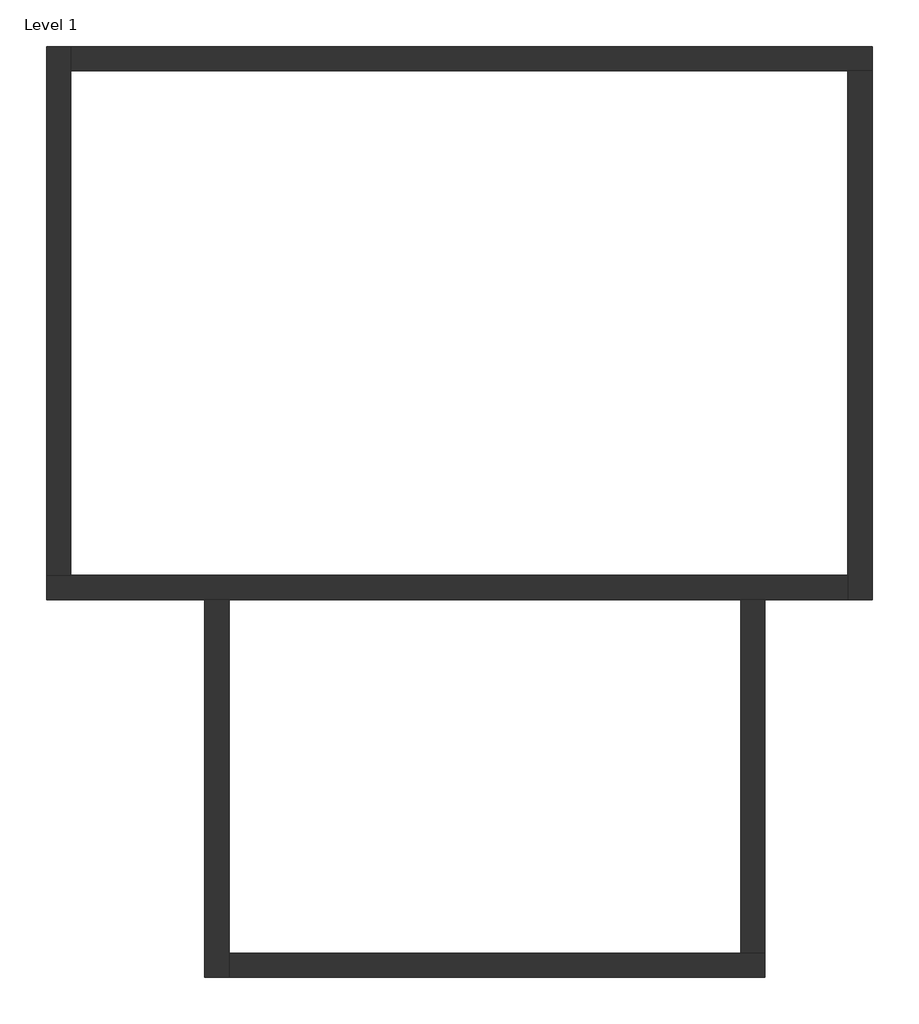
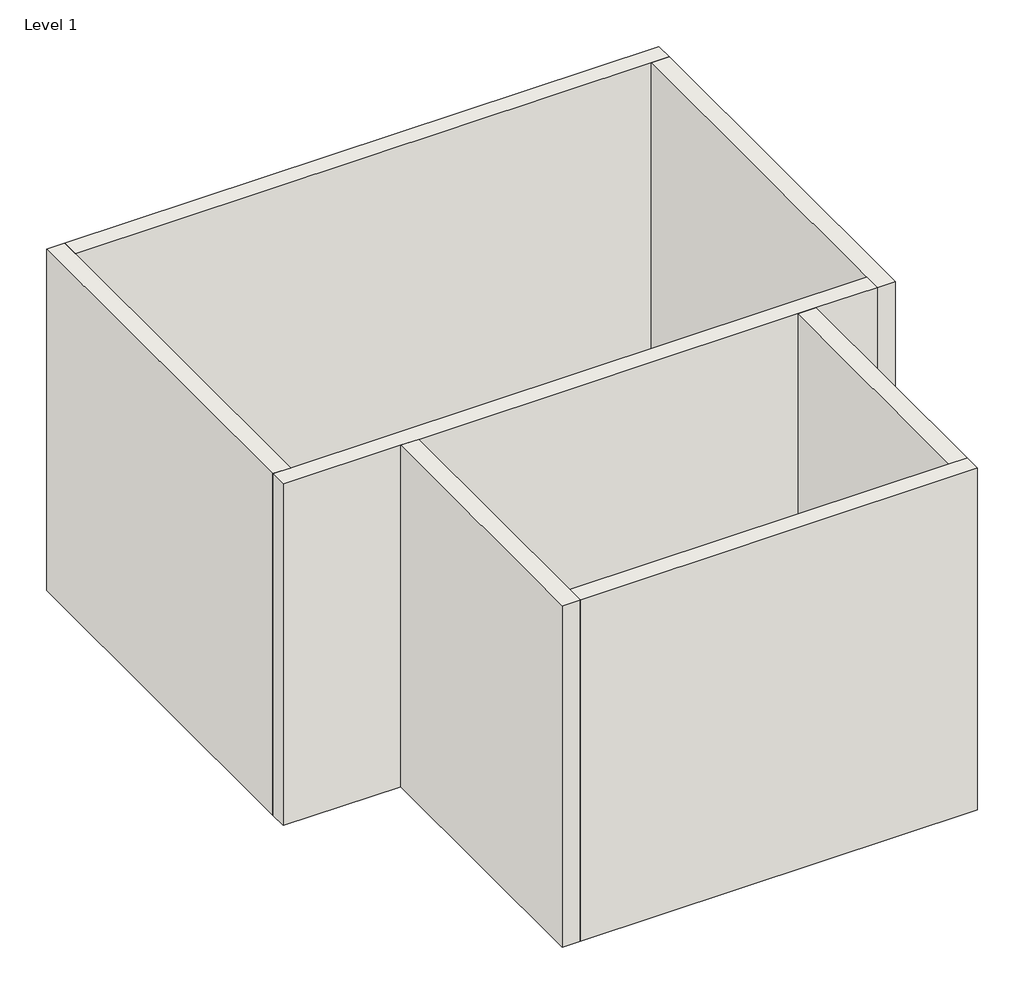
# One storey: 7 walls.
"""IFC4 building model written with IfcOpenShell, lengths in millimetres."""

from ifc_helpers import new_model, si_unit, origin, origin_with_axes, place, context, project, spatial, polyline, outline, extrude, faceted_brep, element, save

model = new_model("IFC4")

# Units and contexts
model_context = context("Model", 3, world=origin())
ifc_project = project(units=[si_unit("LENGTHUNIT", "METRE", prefix="MILLI")], contexts=[model_context])

# Site, building, storey
site = spatial("IfcSite", under=ifc_project)
building = spatial("IfcBuilding", under=site)
storey = spatial("IfcBuildingStorey", under=building, Name="Level 1", Elevation=0.0)

# Walls
placement = place(None, origin())
element("IfcWall", 1, ObjectType="Wall 1", at=placement, inside=storey, context=model_context, shape_type="Brep", body=[
    faceted_brep([(693.1242461, 459.4089264, 0.0), (1993.1242461, 459.4089264, 0.0), (2193.1242461, 459.4089264, 0.0), (6393.1242461, 459.4089264, 0.0), (6593.1242461, 459.4089264, 0.0), (7273.1242461, 459.4089264, 0.0), (7273.1242461, 459.4089264, 4000.0), (6593.1242461, 459.4089264, 4000.0), (6393.1242461, 459.4089264, 4000.0), (2193.1242461, 459.4089264, 4000.0), (1993.1242461, 459.4089264, 4000.0), (693.1242461, 459.4089264, 4000.0), (693.1242461, 659.4089264, 0.0), (693.1242461, 659.4089264, 4000.0), (893.1242461, 659.4089264, 4000.0), (7273.1242461, 659.4089264, 4000.0), (7273.1242461, 659.4089264, 0.0), (893.1242461, 659.4089264, 0.0)], [[[0, 1, 2, 3, 4, 5, 6, 7, 8, 9, 10, 11]], [[12, 13, 14, 15, 16, 17]], [[5, 4, 3, 2, 1, 0, 12, 17, 16]], [[11, 10, 9, 8, 7, 6, 15, 14, 13]], [[0, 11, 13, 12]], [[6, 5, 16, 15]]]),
])
element("IfcWall", 2, ObjectType="Wall 1", at=placement, inside=storey, context=model_context, shape_type="Brep", body=[
    faceted_brep([(693.1242461, 4999.4089264, 0.0), (693.1242461, 659.4089264, 0.0), (693.1242461, 659.4089264, 4000.0), (693.1242461, 4999.4089264, 4000.0), (893.1242461, 4999.4089264, 0.0), (893.1242461, 4999.4089264, 4000.0), (893.1242461, 4799.4089264, 4000.0), (893.1242461, 659.4089264, 4000.0), (893.1242461, 659.4089264, 0.0), (893.1242461, 4799.4089264, 0.0)], [[[0, 1, 2, 3]], [[4, 5, 6, 7, 8, 9]], [[1, 0, 4, 9, 8]], [[3, 2, 7, 6, 5]], [[0, 3, 5, 4]], [[2, 1, 8, 7]]]),
])
element("IfcWall", 3, ObjectType="Wall 1", at=placement, inside=storey, context=model_context, shape_type="Brep", body=[
    faceted_brep([(7473.1242461, 4999.4089264, 0.0), (893.1242461, 4999.4089264, 0.0), (893.1242461, 4999.4089264, 4000.0), (7473.1242461, 4999.4089264, 4000.0), (7473.1242461, 4799.4089264, 0.0), (7473.1242461, 4799.4089264, 4000.0), (7273.1242461, 4799.4089264, 4000.0), (893.1242461, 4799.4089264, 4000.0), (893.1242461, 4799.4089264, 0.0), (7273.1242461, 4799.4089264, 0.0)], [[[0, 1, 2, 3]], [[4, 5, 6, 7, 8, 9]], [[1, 0, 4, 9, 8]], [[3, 2, 7, 6, 5]], [[0, 3, 5, 4]], [[2, 1, 8, 7]]]),
])
element("IfcWall", 4, ObjectType="Wall 1", at=placement, inside=storey, context=model_context, shape_type="Brep", body=[
    faceted_brep([(7473.1242461, 459.4089264, 0.0), (7473.1242461, 4799.4089264, 0.0), (7473.1242461, 4799.4089264, 4000.0), (7473.1242461, 459.4089264, 4000.0), (7273.1242461, 459.4089264, 0.0), (7273.1242461, 459.4089264, 4000.0), (7273.1242461, 659.4089264, 4000.0), (7273.1242461, 4799.4089264, 4000.0), (7273.1242461, 4799.4089264, 0.0), (7273.1242461, 659.4089264, 0.0)], [[[0, 1, 2, 3]], [[4, 5, 6, 7, 8, 9]], [[1, 0, 4, 9, 8]], [[3, 2, 7, 6, 5]], [[0, 3, 5, 4]], [[2, 1, 8, 7]]]),
])
element("IfcWall", 5, ObjectType="Wall 1", at=placement, inside=storey, context=model_context, shape_type="Brep", body=[
    faceted_brep([(1993.1242461, 459.4089264, 0.0), (1993.1242461, -2640.5910736, 0.0), (1993.1242461, -2640.5910736, 4000.0), (1993.1242461, 459.4089264, 4000.0), (2193.1242461, 459.4089264, 0.0), (2193.1242461, 459.4089264, 4000.0), (2193.1242461, -2440.5910736, 4000.0), (2193.1242461, -2640.5910736, 4000.0), (2193.1242461, -2640.5910736, 0.0), (2193.1242461, -2440.5910736, 0.0)], [[[0, 1, 2, 3]], [[4, 5, 6, 7, 8, 9]], [[1, 0, 4, 9, 8]], [[3, 2, 7, 6, 5]], [[0, 3, 5, 4]], [[2, 1, 8, 7]]]),
])
element("IfcWall", 6, ObjectType="Wall 1", at=placement, inside=storey, context=model_context, shape_type="Brep", body=[
    faceted_brep([(2193.1242461, -2640.5910736, 0.0), (6593.1242461, -2640.5910736, 0.0), (6593.1242461, -2640.5910736, 4000.0), (2193.1242461, -2640.5910736, 4000.0), (2193.1242461, -2440.5910736, 0.0), (2193.1242461, -2440.5910736, 4000.0), (6393.1242461, -2440.5910736, 4000.0), (6593.1242461, -2440.5910736, 4000.0), (6593.1242461, -2440.5910736, 0.0), (6393.1242461, -2440.5910736, 0.0)], [[[0, 1, 2, 3]], [[4, 5, 6, 7, 8, 9]], [[1, 0, 4, 9, 8]], [[3, 2, 7, 6, 5]], [[0, 3, 5, 4]], [[2, 1, 8, 7]]]),
])
element("IfcWall", 7, ObjectType="Wall 1", at=placement, inside=storey, context=model_context, shape_type="SweptSolid", body=[
    extrude(outline(polyline([(6593.1242461, 459.4089264), (6593.1242461, -2440.5910736), (6393.1242461, -2440.5910736), (6393.1242461, 459.4089264), (6593.1242461, 459.4089264)])), origin_with_axes(), (0.0, 0.0, 1.0), 4000.0),
])

save(model, "model.ifc")
